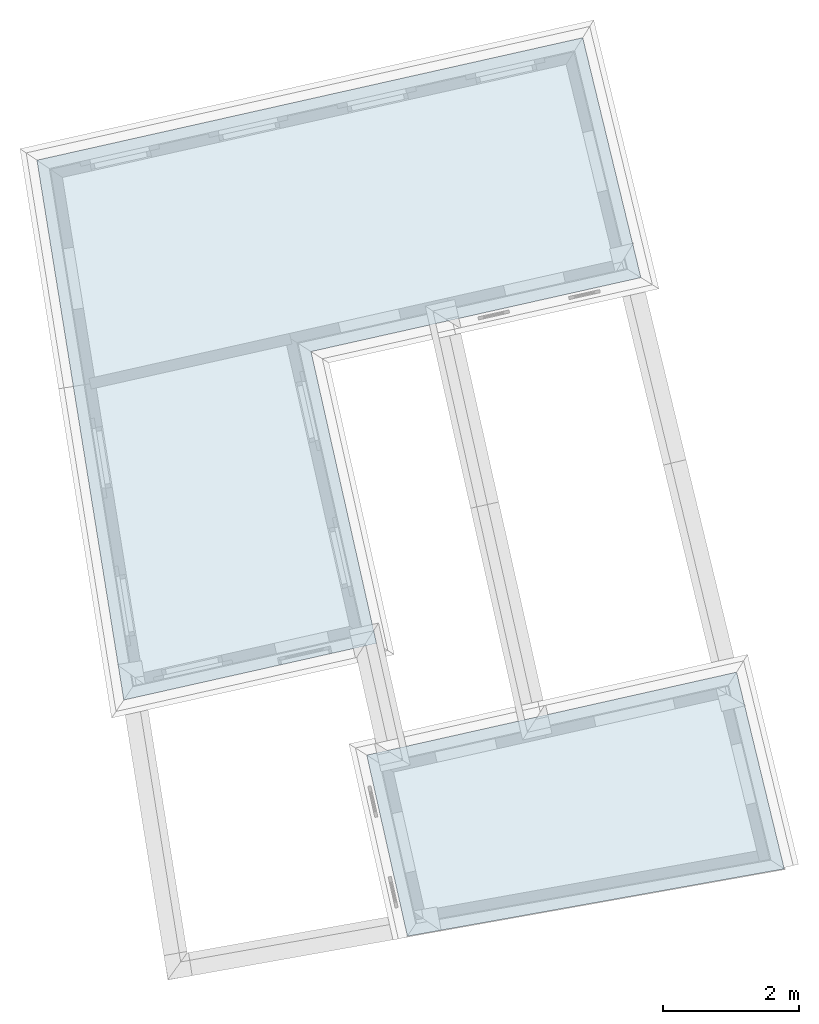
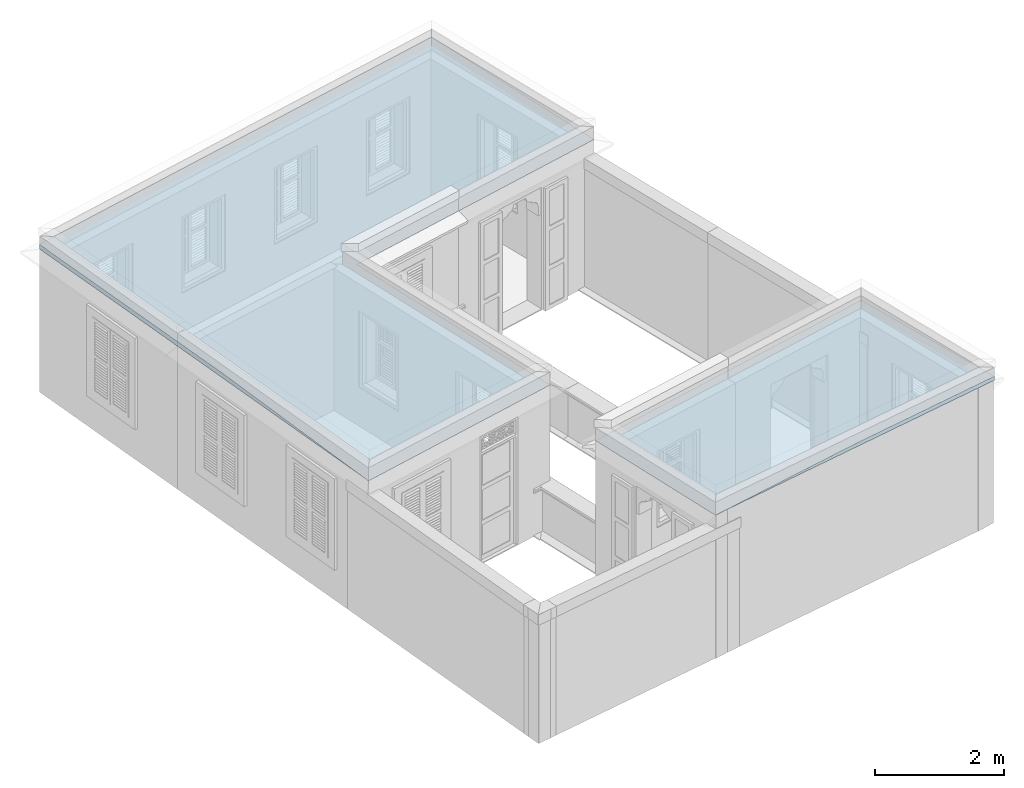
# One storey, part 15 of 15: 1 roof.
"""IFC4 building model written with IfcOpenShell, lengths in metres."""

from ifc_helpers import new_model, si_unit, frame, origin, origin_with_axes, place, context, subcontext, project, spatial, boolean, faceted_brep, element, save


model = new_model("IFC4")

# Units and contexts
model_context = context("Model", 3, world=origin_with_axes())
body_context = subcontext(model_context, "Body", "Model", "MODEL_VIEW")
ifc_project = project(units=[si_unit("PLANEANGLEUNIT", "RADIAN"), si_unit("MASSUNIT", "GRAM", prefix="KILO"), si_unit("FORCEUNIT", "NEWTON", prefix="KILO"), si_unit("LENGTHUNIT", "METRE"), si_unit("AREAUNIT", "SQUARE_METRE"), si_unit("VOLUMEUNIT", "CUBIC_METRE")], contexts=[model_context, model_context])

# Site, building, storey
site_placement = place(None, origin_with_axes())
site = spatial("IfcSite", under=ifc_project, at=site_placement, Name="Site plot-10", CompositionType="ELEMENT")
building_placement = place(None, origin_with_axes())
building = spatial("IfcBuilding", under=site, at=building_placement, Name="Building plot-10", CompositionType="ELEMENT")
storey_placement = place(None, frame((0.0, 0.0, 2.7), z_axis=(0.0, 0.0, 1.0), x_axis=(1.0, 0.0, 0.0)))
storey = spatial("IfcBuildingStorey", under=building, at=storey_placement, Name="plot-10 1", CompositionType="ELEMENT", Elevation=2.7)

# Roof
roof_placement = place(building_placement, origin())
element("IfcRoof", 1, at=roof_placement, inside=storey, Name="Roof", PredefinedType="FREEFORM", context=body_context, shape_type="CSG", body=[
    boolean("UNION", boolean("UNION", faceted_brep([(-14.973392, 12.261707, 5.4), (-20.424608, 11.038627, 5.4), (-17.00711, 8.873658, 5.471516), (-14.270413, 9.362898, 5.47456), (-14.270413, 9.362898, 5.4), (-19.825799, 8.369761, 5.4)], [[[0, 1, 2, 3]], [[4, 5, 1, 0]], [[3, 4, 0]], [[2, 1, 5]], [[2, 5, 4, 3]]]), faceted_brep([(-24.708675, 16.212376, 5.4), (-16.384386, 18.080084, 5.4), (-17.241675, 21.615207, 5.490926), (-25.287473, 19.809984, 5.490926), (-25.287473, 19.809984, 5.4), (-17.241675, 21.615207, 5.4)], [[[0, 1, 2, 3]], [[4, 5, 1, 0]], [[3, 4, 0]], [[2, 1, 5]], [[2, 5, 4, 3]]])), faceted_brep([(-20.282211, 12.687852, 5.4), (-22.043498, 20.537829, 5.4), (-25.287473, 19.809984, 5.483116), (-24.579625, 15.410243, 5.489929), (-24.007175, 11.852088, 5.4), (-25.287473, 19.809984, 5.4)], [[[0, 1, 2, 3]], [[4, 5, 1, 0]], [[3, 4, 0]], [[2, 1, 5]], [[2, 5, 4, 3]]])),
])

save(model, "model.ifc")
